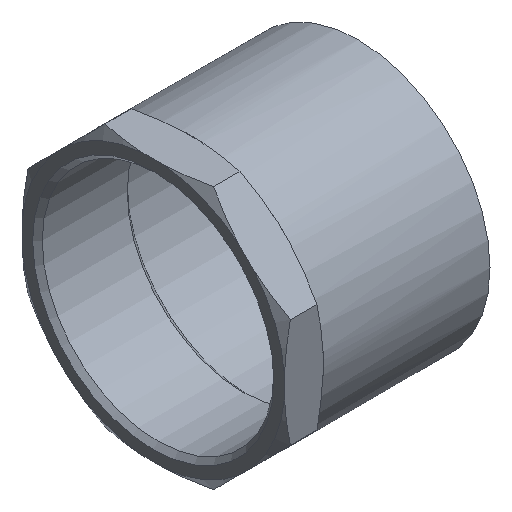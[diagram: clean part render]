
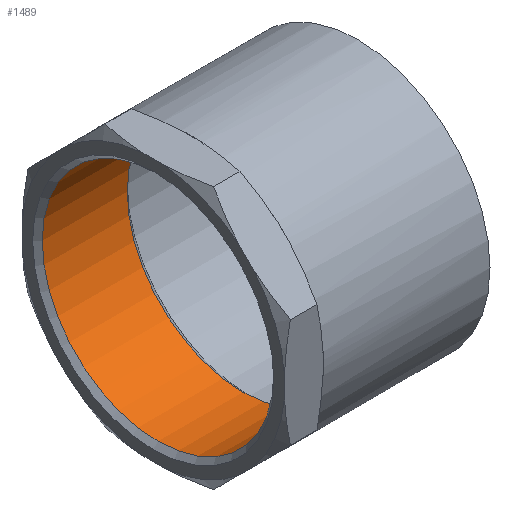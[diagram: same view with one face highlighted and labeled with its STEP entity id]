
A CAD part, isometric view. The second image highlights one B-rep face of the part: STEP entity #1489.
In plain terms, the highlighted cylindrical face has radius 36.113 mm (diameter 72.226 mm), a full revolution.
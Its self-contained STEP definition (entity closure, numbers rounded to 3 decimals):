
#1455=CARTESIAN_POINT('',(-3.997,36.113,0.0));
#1456=VERTEX_POINT('',#1455);
#1457=CARTESIAN_POINT('',(-3.997,0.,0.0));
#1458=DIRECTION('',(1.0,0.0,0.0));
#1459=DIRECTION('',(0.0,1.0,0.0));
#1460=AXIS2_PLACEMENT_3D('',#1457,#1458,#1459);
#1461=CIRCLE('',#1460,36.113);
#1462=EDGE_CURVE('',#1456,#1456,#1461,.T.);
#1470=CARTESIAN_POINT('',(-17.248,0.,0.0));
#1471=DIRECTION('',(1.0,0.,0.0));
#1472=DIRECTION('',(0.0,1.0,0.0));
#1473=AXIS2_PLACEMENT_3D('',#1470,#1471,#1472);
#1474=CYLINDRICAL_SURFACE('',#1473,36.113);
#1475=CARTESIAN_POINT('',(-30.5,36.113,0.0));
#1476=VERTEX_POINT('',#1475);
#1477=CARTESIAN_POINT('',(-30.5,0.,0.0));
#1478=DIRECTION('',(1.0,0.0,0.0));
#1479=DIRECTION('',(0.0,1.0,0.0));
#1480=AXIS2_PLACEMENT_3D('',#1477,#1478,#1479);
#1481=CIRCLE('',#1480,36.113);
#1482=EDGE_CURVE('',#1476,#1476,#1481,.T.);
#1483=ORIENTED_EDGE('',*,*,#1482,.F.);
#1484=EDGE_LOOP('',(#1483));
#1485=FACE_OUTER_BOUND('',#1484,.T.);
#1486=ORIENTED_EDGE('',*,*,#1462,.T.);
#1487=EDGE_LOOP('',(#1486));
#1488=FACE_BOUND('',#1487,.T.);
#1489=ADVANCED_FACE('',(#1485,#1488),#1474,.F.);
